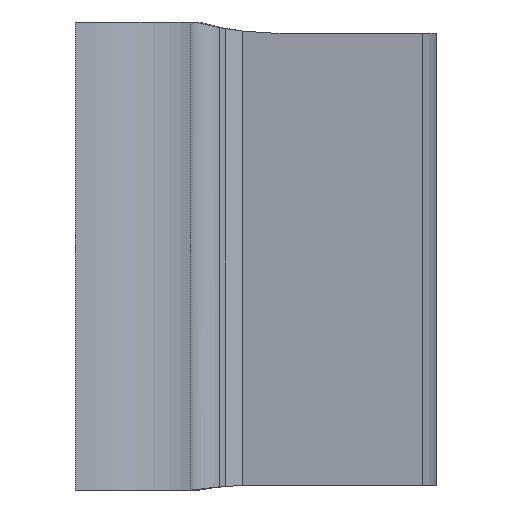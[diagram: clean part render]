
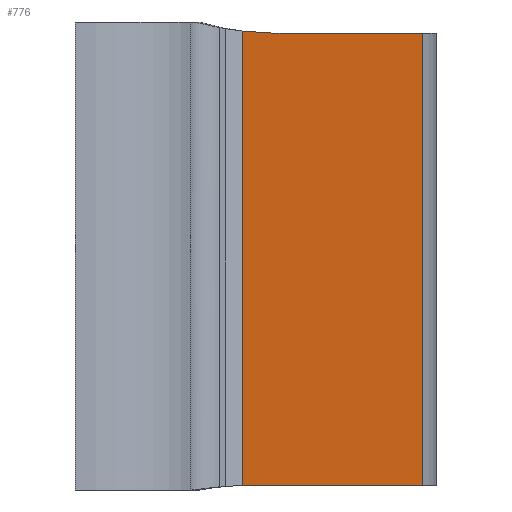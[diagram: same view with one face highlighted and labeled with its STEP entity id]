
A CAD part, left-side view. The second image highlights one B-rep face of the part: STEP entity #776.
In plain terms, the highlighted planar face has unit normal (-0.559, -0.829, 0).
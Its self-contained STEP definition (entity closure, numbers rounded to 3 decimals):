
#25=CARTESIAN_POINT('',(-1.491,-14.819,-20.306));
#31=CARTESIAN_POINT('',(-1.491,-14.819,-20.306));
#32=CARTESIAN_POINT('',(-1.337,-14.923,-20.304));
#33=CARTESIAN_POINT('',(-1.03,-15.13,-20.301));
#34=CARTESIAN_POINT('',(-0.72,-15.339,-20.3));
#35=CARTESIAN_POINT('',(-0.565,-15.444,-20.3));
#248=DIRECTION('',(-0.829,0.559,0.));
#249=VECTOR('',#248,23.189);
#250=CARTESIAN_POINT('',(22.105,-30.735,19.7));
#251=LINE('',#250,#249);
#266=DIRECTION('',(0.,0.,1.));
#267=VECTOR('',#266,40.);
#268=CARTESIAN_POINT('',(22.105,-30.735,-20.3));
#269=LINE('',#268,#267);
#270=DIRECTION('',(0.,0.,-1.));
#271=VECTOR('',#270,40.2);
#272=CARTESIAN_POINT('',(-1.491,-14.819,19.894));
#273=LINE('',#272,#271);
#274=DIRECTION('',(-0.829,0.559,0.));
#275=VECTOR('',#274,27.345);
#276=CARTESIAN_POINT('',(22.105,-30.735,-20.3));
#277=LINE('',#276,#275);
#282=CARTESIAN_POINT('',(-1.491,-14.819,19.894));
#301=CARTESIAN_POINT('',(2.881,-17.768,19.7));
#302=CARTESIAN_POINT('',(2.445,-17.474,19.7));
#303=CARTESIAN_POINT('',(1.613,-16.913,19.715));
#304=CARTESIAN_POINT('',(0.48,-16.149,19.765));
#305=CARTESIAN_POINT('',(-0.543,-15.459,
19.827));
#306=CARTESIAN_POINT('',(-1.183,-15.027,19.872));
#307=CARTESIAN_POINT('',(-1.491,-14.819,19.894));
#371=CARTESIAN_POINT('',(22.105,-30.735,19.7));
#373=VERTEX_POINT('',#371);
#376=CARTESIAN_POINT('',(22.105,-30.735,-20.3));
#378=VERTEX_POINT('',#376);
#389=CARTESIAN_POINT('',(2.881,-17.768,19.7));
#391=VERTEX_POINT('',#389);
#392=CARTESIAN_POINT('',(-0.565,-15.444,-20.3));
#394=VERTEX_POINT('',#392);
#428=VERTEX_POINT('',#25);
#432=VERTEX_POINT('',#282);
#762=CARTESIAN_POINT('',(-2.237,-14.316,19.7));
#763=DIRECTION('',(0.559,0.829,0.));
#764=DIRECTION('',(0.829,-0.559,0.));
#765=AXIS2_PLACEMENT_3D('',#762,#763,#764);
#766=PLANE('',#765);
#767=ORIENTED_EDGE('',*,*,#498,.F.);
#769=ORIENTED_EDGE('',*,*,#768,.F.);
#770=ORIENTED_EDGE('',*,*,#738,.F.);
#771=ORIENTED_EDGE('',*,*,#757,.F.);
#772=ORIENTED_EDGE('',*,*,#605,.T.);
#773=ORIENTED_EDGE('',*,*,#472,.F.);
#774=EDGE_LOOP('',(#767,#769,#770,#771,#772,#773));
#775=FACE_OUTER_BOUND('',#774,.F.);
#776=ADVANCED_FACE('',(#775),#766,.F.);
#36=B_SPLINE_CURVE_WITH_KNOTS('',3,(#31,#32,#33,#34,#35),.UNSPECIFIED.,.F.,.F.,(
4,1,4),(0.,0.5,1.),.UNSPECIFIED.);
#308=B_SPLINE_CURVE_WITH_KNOTS('',3,(#301,#302,#303,#304,#305,#306,#307),
.UNSPECIFIED.,.F.,.F.,(4,1,1,1,4),(0.,0.25,0.5,0.75,1.),
.UNSPECIFIED.);
#472=EDGE_CURVE('',#428,#394,#36,.T.);
#498=EDGE_CURVE('',#432,#428,#273,.T.);
#605=EDGE_CURVE('',#378,#394,#277,.T.);
#738=EDGE_CURVE('',#373,#391,#251,.T.);
#757=EDGE_CURVE('',#378,#373,#269,.T.);
#768=EDGE_CURVE('',#391,#432,#308,.T.);
